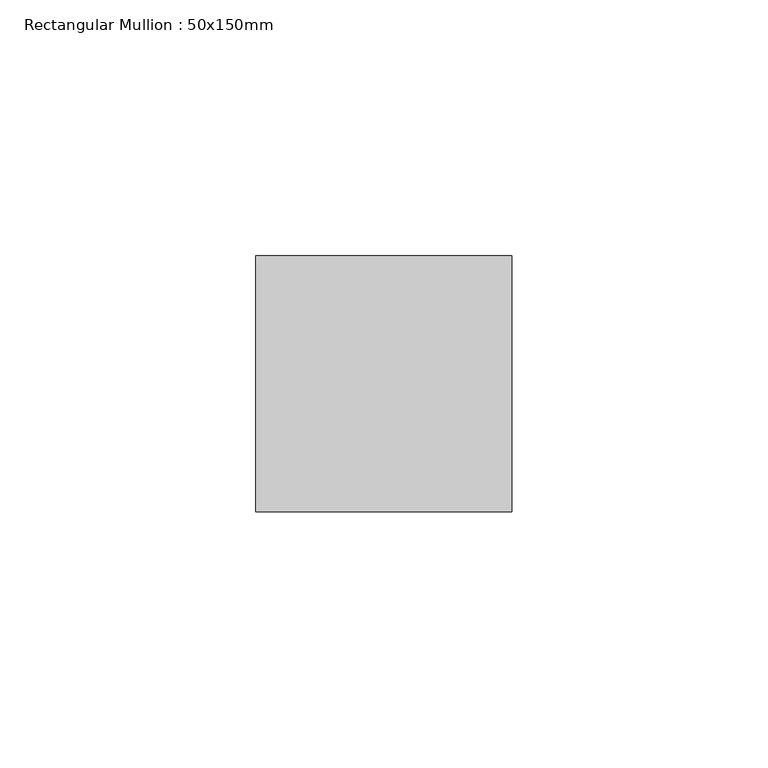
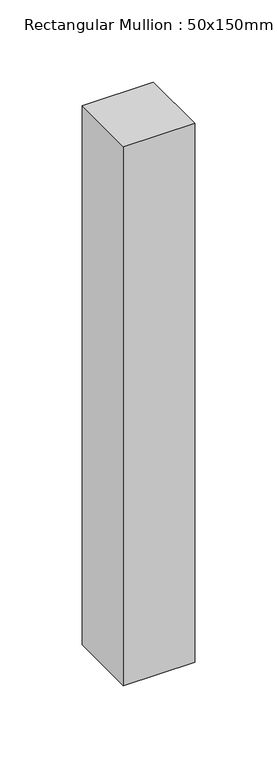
"""IFC4 building model written with IfcOpenShell, lengths in millimetres: member geometry, Rectangular Mullion : 50x150mm."""

from ifc_helpers import new_model, si_unit, frame, origin, place, context, project, spatial, polyline, outline, extrude, source, transform, mapped, element, save


def rectangular_mullion_50x150mm_58209b6d(model_context):
    return source(origin(), model_context, "Body", "SweptSolid", [
        extrude(outline(polyline([(25.0, 25.0), (25.0, -25.0), (-25.0, -25.0), (-25.0, 25.0), (25.0, 25.0)])), frame((0.0, 0.0, -400.0), z_axis=(0.0, 0.0, 1.0), x_axis=(1.0, 0.0, 0.0)), (0.0, 0.0, 1.0), 400.0),
    ])


if __name__ == "__main__":
    model = new_model("IFC4")
    model_context = context("Model", 3, world=origin())
    ifc_project = project(units=[si_unit("LENGTHUNIT", "METRE", prefix="MILLI")], contexts=[model_context])
    site = spatial("IfcSite", under=ifc_project)
    building = spatial("IfcBuilding", under=site)
    placement = place(None, origin())
    rectangular_mullion_50x150mm_shape = rectangular_mullion_50x150mm_58209b6d(model_context)
    element("IfcMember", 1, ObjectType="Rectangular Mullion : 50x150mm", at=placement, inside=building, context=model_context, shape_type="MappedRepresentation", body=[
        mapped(rectangular_mullion_50x150mm_shape, transform((0.0, 0.0, 0.0), x_axis=(1.0, 0.0, 0.0), y_axis=(0.0, 1.0, 0.0), z_axis=(0.0, 0.0, 1.0))),
    ])
    save(model, "model.ifc")
